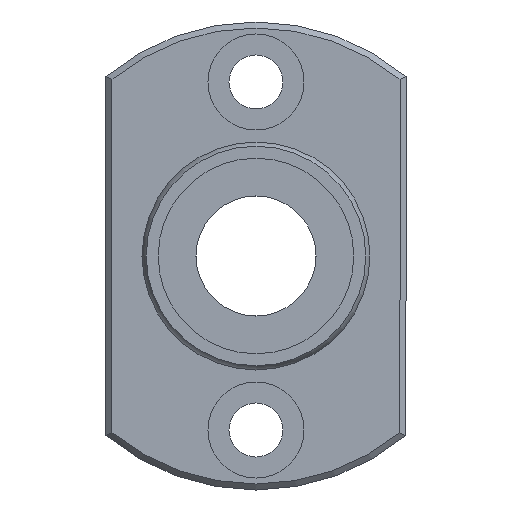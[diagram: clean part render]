
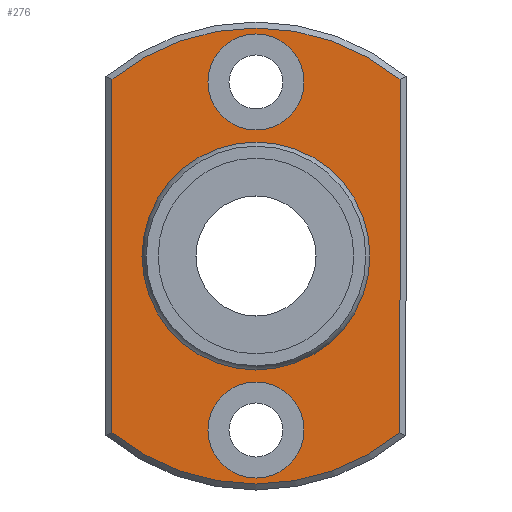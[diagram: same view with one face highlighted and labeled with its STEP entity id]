
A CAD part, left-side view. The second image highlights one B-rep face of the part: STEP entity #276.
In plain terms, the highlighted planar face has unit normal (-1, 0, 0).
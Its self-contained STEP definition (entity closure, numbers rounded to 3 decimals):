
#59=CARTESIAN_POINT('',(24.5,-12.,14.731));
#60=VERTEX_POINT('',#59);
#68=CARTESIAN_POINT('',(24.5,-12.,-14.731));
#69=VERTEX_POINT('',#68);
#70=CARTESIAN_POINT('',(24.5,-12.,14.731));
#71=DIRECTION('',(0.0,0.0,-1.0));
#72=VECTOR('',#71,29.462);
#73=LINE('',#70,#72);
#74=EDGE_CURVE('',#60,#69,#73,.T.);
#101=CARTESIAN_POINT('',(24.5,12.,-14.731));
#102=VERTEX_POINT('',#101);
#103=CARTESIAN_POINT('',(24.5,0.0,0.0));
#104=DIRECTION('',(1.0,0.0,0.0));
#105=DIRECTION('',(0.0,0.0,-1.0));
#106=AXIS2_PLACEMENT_3D('',#103,#104,#105);
#107=CIRCLE('',#106,19.);
#108=EDGE_CURVE('',#69,#102,#107,.T.);
#134=CARTESIAN_POINT('',(24.5,12.,14.731));
#135=VERTEX_POINT('',#134);
#136=CARTESIAN_POINT('',(24.5,12.,-14.731));
#137=DIRECTION('',(0.0,0.0,1.0));
#138=VECTOR('',#137,29.462);
#139=LINE('',#136,#138);
#140=EDGE_CURVE('',#102,#135,#139,.T.);
#165=CARTESIAN_POINT('',(24.5,0.0,0.0));
#166=DIRECTION('',(1.0,0.0,0.0));
#167=DIRECTION('',(0.0,0.0,1.0));
#168=AXIS2_PLACEMENT_3D('',#165,#166,#167);
#169=CIRCLE('',#168,19.);
#170=EDGE_CURVE('',#135,#60,#169,.T.);
#232=CARTESIAN_POINT('',(24.5,0.0,14.393));
#233=DIRECTION('',(-1.0,0.0,0.0));
#234=DIRECTION('',(0.0,0.0,1.0));
#235=AXIS2_PLACEMENT_3D('',#232,#233,#234);
#236=PLANE('',#235);
#237=ORIENTED_EDGE('',*,*,#74,.F.);
#238=ORIENTED_EDGE('',*,*,#170,.F.);
#239=ORIENTED_EDGE('',*,*,#140,.F.);
#240=ORIENTED_EDGE('',*,*,#108,.F.);
#241=EDGE_LOOP('',(#237,#238,#239,#240));
#242=FACE_OUTER_BOUND('',#241,.T.);
#243=CARTESIAN_POINT('',(24.5,0.0,9.286));
#244=VERTEX_POINT('',#243);
#245=CARTESIAN_POINT('',(24.5,0.0,0.0));
#246=DIRECTION('',(-1.0,0.0,0.0));
#247=DIRECTION('',(0.0,0.0,1.0));
#248=AXIS2_PLACEMENT_3D('',#245,#246,#247);
#249=CIRCLE('',#248,9.286);
#250=EDGE_CURVE('',#244,#244,#249,.T.);
#251=ORIENTED_EDGE('',*,*,#250,.F.);
#252=EDGE_LOOP('',(#251));
#253=FACE_BOUND('',#252,.T.);
#254=CARTESIAN_POINT('',(24.5,4.,-14.5));
#255=VERTEX_POINT('',#254);
#256=CARTESIAN_POINT('',(24.5,0.,-14.5));
#257=DIRECTION('',(1.0,0.0,0.0));
#258=DIRECTION('',(0.0,1.0,0.0));
#259=AXIS2_PLACEMENT_3D('',#256,#257,#258);
#260=CIRCLE('',#259,4.0);
#261=EDGE_CURVE('',#255,#255,#260,.T.);
#262=ORIENTED_EDGE('',*,*,#261,.T.);
#263=EDGE_LOOP('',(#262));
#264=FACE_BOUND('',#263,.T.);
#265=CARTESIAN_POINT('',(24.5,4.,14.5));
#266=VERTEX_POINT('',#265);
#267=CARTESIAN_POINT('',(24.5,0.,14.5));
#268=DIRECTION('',(1.0,0.0,0.0));
#269=DIRECTION('',(0.0,1.0,0.0));
#270=AXIS2_PLACEMENT_3D('',#267,#268,#269);
#271=CIRCLE('',#270,4.0);
#272=EDGE_CURVE('',#266,#266,#271,.T.);
#273=ORIENTED_EDGE('',*,*,#272,.T.);
#274=EDGE_LOOP('',(#273));
#275=FACE_BOUND('',#274,.T.);
#276=ADVANCED_FACE('',(#242,#253,#264,#275),#236,.T.);
